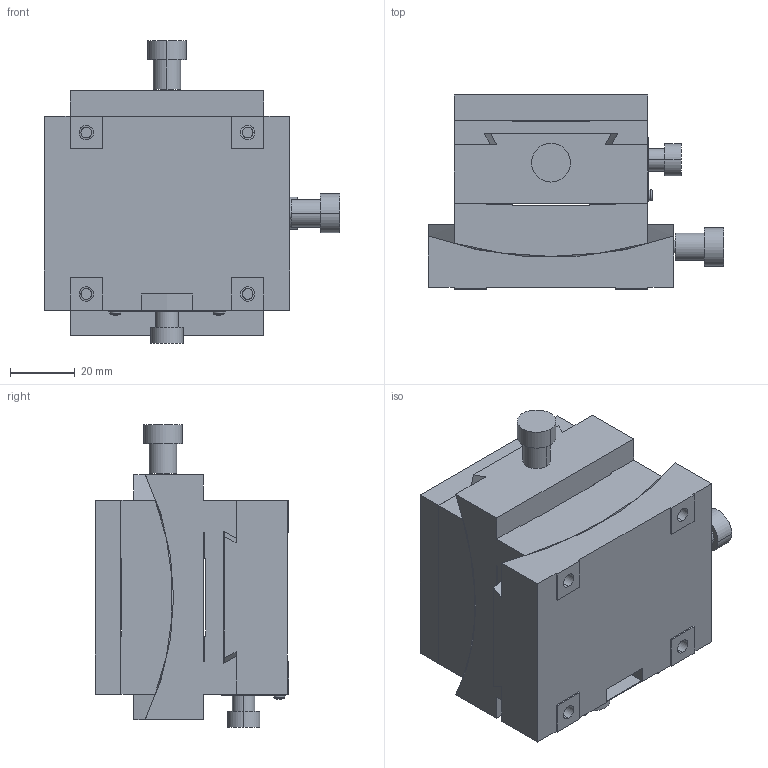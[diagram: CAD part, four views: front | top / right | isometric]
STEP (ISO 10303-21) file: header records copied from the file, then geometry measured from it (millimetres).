
FILE_DESCRIPTION (( 'STEP AP203' ), '1' );
FILE_NAME ('TD-C611.STEP', '2008-03-03T01:29:33', ( '' ), ( '' ), 'SwSTEP 2.0', 'SolidWorks 2007', '' );
FILE_SCHEMA (( 'CONFIG_CONTROL_DESIGN' ));
Length unit declared in the file: millimetre
Products named in the file (5): TD-C611; TD-C611-4_蹬怮椔; TD-C611-3_蹬怮椔; TD-C611-1_蹬怮椔; TD-C611-2_蹬怮椔
Assembly tree (4 placements, depth 2):
  TD-C611
    TD-C611-2_蹬怮椔
    TD-C611-3_蹬怮椔
    TD-C611-4_蹬怮椔
    TD-C611-1_蹬怮椔
Bounding box: 91.5 x 60 x 93.8 mm (x, y, z)
Volume: 244328.4 mm3; surface area: 70495.9 mm2
Topology: 4 solids, 8 shells, 407 faces, 982 edges, 648 vertices
Faces by surface type: cylinder 210, plane 165, cone 16, sphere 8, torus 8
Entity records: 13839 total; most frequent: CARTESIAN_POINT 3376, DIRECTION 2158, ORIENTED_EDGE 1964, EDGE_CURVE 982, AXIS2_PLACEMENT_3D 834, VERTEX_POINT 648, EDGE_LOOP 534, VECTOR 490
